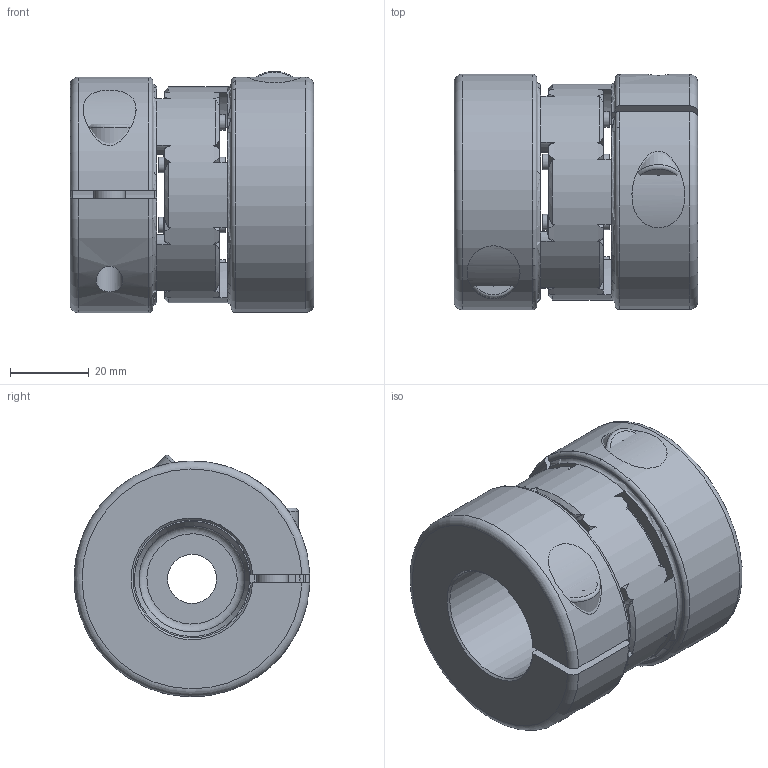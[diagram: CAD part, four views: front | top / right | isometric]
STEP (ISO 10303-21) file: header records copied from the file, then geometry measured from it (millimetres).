
FILE_DESCRIPTION(/* description */ ('Unknown','CAx-IF Rec.Pracs.---Representation and Presentation of Product Manufacturing Information (PMI)---4.0---2014-10-13','CAx-IF Rec.Pracs.---3D Tessellated Geometry---0.4---2014-09-14','2;1'),/* implementation_level */ '2;1');
FILE_NAME(/* name */ 'EKM - VA 50',/* time_stamp */ '2023-05-26T10:24:40+02:00',/* author */ ('Unknown'),/* organization */ ('Unknown'),/* preprocessor_version */ 'ST-DEVELOPER v18.102',/* originating_system */ 'Solid Edge',/* authorisation */ 'Unknown');
FILE_SCHEMA (('AP242_MANAGED_MODEL_BASED_3D_ENGINEERING_MIM_LF { 1 0 10303 442 1 1 4 }'));
Length unit declared in the file: millimetre
Products named in the file (1): EKM - VA 50
Bounding box: 62 x 59.98 x 61.48 mm (x, y, z)
Volume: 118052.2 mm3; surface area: 34713.5 mm2
Topology: 1 solids, 3 shells, 405 faces, 1108 edges, 719 vertices
Faces by surface type: plane 174, cylinder 143, cone 72, torus 10, bspline 6
Full cylindrical faces by diameter (mm): 4 x8, 6.8 x2, 8 x2, 8.6 x2, 12.5 x1, 13 x2, 13.5 x2, 27 x2, 55 x1
Entity records: 16624 total; most frequent: CARTESIAN_POINT 4196, ORIENTED_EDGE 2130, DIRECTION 1761, EDGE_CURVE 1065, VERTEX_POINT 708, AXIS2_PLACEMENT_3D 675, FACE_BOUND 481, EDGE_LOOP 479
